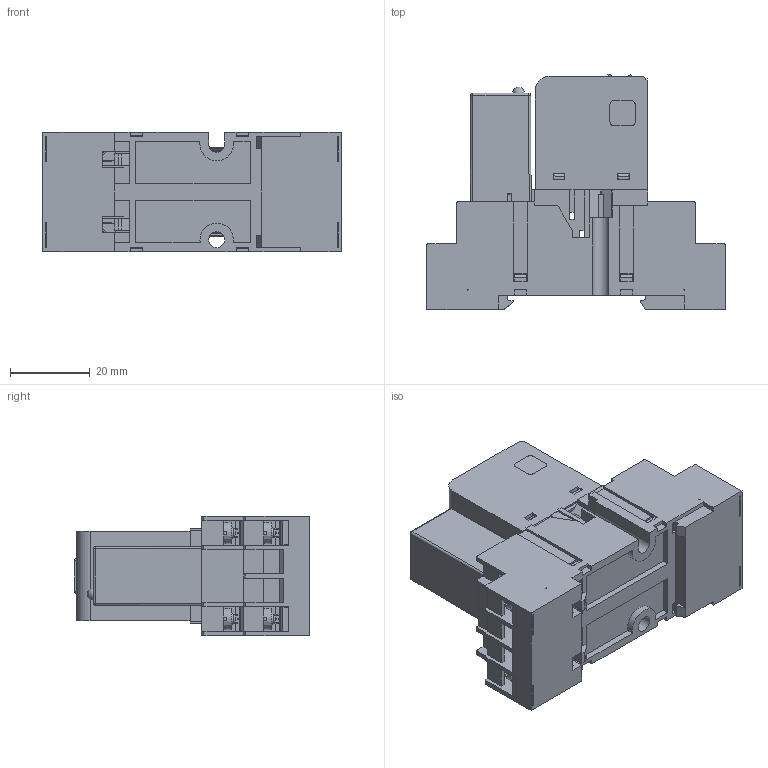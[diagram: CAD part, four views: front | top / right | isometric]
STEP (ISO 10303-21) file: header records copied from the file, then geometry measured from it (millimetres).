
FILE_DESCRIPTION(('STEP AP214'), '1');
FILE_NAME('Ðåëå ìîäóëüíîå ÐÏ30ÍÌ-002 (íà ïîêàç)', '', ('UNSPECIFIED'), ('UNSPECIFIED'), 'ASCON STEP Converter 1.6', 'ASCON Math Kernel', '');
FILE_SCHEMA(('AUTOMOTIVE_DESIGN { 1 0 10303 214 3 1 1}'));
Length unit declared in the file: millimetre
Bounding box: 74.9 x 59 x 30 mm (x, y, z)
Volume: 21683.8 mm3; surface area: 39012.2 mm2
Topology: 10 solids, 10 shells, 2858 faces, 8181 edges, 5246 vertices
Faces by surface type: plane 2159, cylinder 441, torus 112, bspline 88, cone 57, sphere 1
Full cylindrical faces by diameter (mm): 0.3 x2, 0.6 x2, 2.3 x8, 3 x18, 3.2 x1, 3.54 x8, 4 x1, 4.5 x14
Entity records: 129915 total; most frequent: CARTESIAN_POINT 34214, ORIENTED_EDGE 16160, DIRECTION 13517, EDGE_CURVE 8080, LINE 5993, VECTOR 5993, VERTEX_POINT 5245, AXIS2_PLACEMENT_3D 3762
